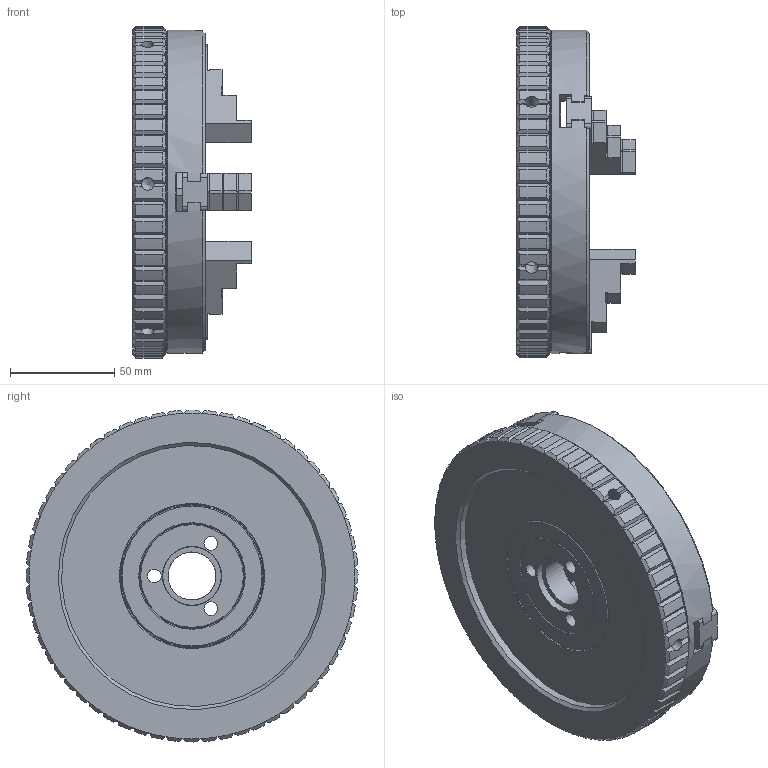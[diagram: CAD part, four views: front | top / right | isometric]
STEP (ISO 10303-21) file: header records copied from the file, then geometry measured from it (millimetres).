
FILE_DESCRIPTION(/* description */ ('Distanzring'),/* implementation_level */ '2;1');
FILE_NAME(/* name */ 'D:\03 Projekte\Futtervariationen\(2) Dateien für Webseite\DBF160\DBF160_00-00 Dreibackenfutter DBF160.iam.stp',/* time_stamp */ '2022-01-27T15:16:13+01:00',/* author */ ('D. Pustolla'),/* organization */ (''),/* preprocessor_version */ 'ST-DEVELOPER v15.2',/* originating_system */ 'Autodesk Inventor 2014',/* authorisation */ '');
FILE_SCHEMA (('AUTOMOTIVE_DESIGN { 1 0 10303 214 3 1 1 }'));
Length unit declared in the file: millimetre
Products named in the file (7): DBF160_00-11 Distanzring; DBF160_00-12 Futterkörper; DBF160_00-13 Spannbacken 1; DBF160_00-14 Spannbacken 2; DBF160_00-15 Spannbacken 3; DBF160_00-16 Spannring; DBF160_00-00 Dreibackenfutter DBF160
Bounding box: 56.8 x 158.99 x 158.99 mm (x, y, z)
Volume: 554509.7 mm3; surface area: 129996.6 mm2
Topology: 6 solids, 6 shells, 625 faces, 1567 edges, 948 vertices
Faces by surface type: plane 372, cone 145, cylinder 108
Full cylindrical faces by diameter (mm): 5 x9, 6.1 x6, 6.6 x3, 11 x3, 23 x1, 28 x1, 49.5 x1, 50 x3, 68 x1, 69 x1, 125 x1, 143 x1, 144 x1, 155 x1
Entity records: 18606 total; most frequent: CARTESIAN_POINT 3713, ORIENTED_EDGE 2976, DIRECTION 2959, EDGE_CURVE 1488, AXIS2_PLACEMENT_3D 1097, VERTEX_POINT 921, LINE 765, VECTOR 765
